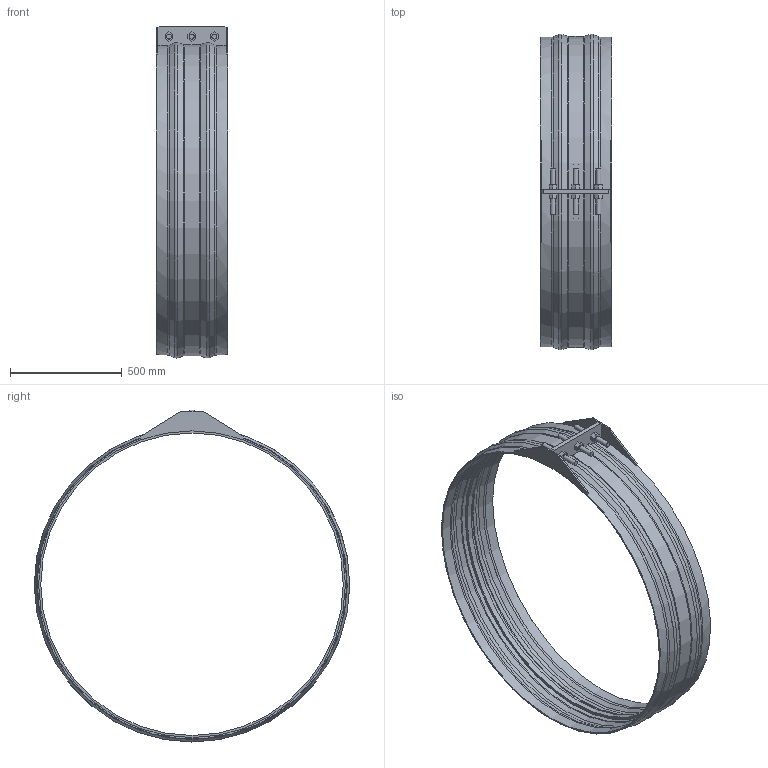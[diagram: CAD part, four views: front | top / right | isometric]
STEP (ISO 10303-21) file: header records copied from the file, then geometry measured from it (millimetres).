
FILE_DESCRIPTION(/* description */ ('VIC SS RESTRAINED COUPLING STYLE 233S (FLEX) (BRD)','CAx-IF Rec.Pracs.---Representation and Presentation of Product Manufacturing Information (PMI)---4.0---2014-10-13'),/* implementation_level */ '2;1');
FILE_NAME(/* name */ 'C:\Users\kkamble\AppData\Roaming\Autodesk\ApplicationPlugins\Back Up\Victaulic_VBSP_Coupling Flexible Restrained_Style 233S (BRD)\Victaulic_VBSP_Coupling Flexible Restrained_Style 233S (BRD)_50psi_54 (1350).stp',/* time_stamp */ '2020-09-22T18:30:14+05:00',/* author */ ('Vjadhav'),/* organization */ ('Victaulic'),/* preprocessor_version */ 'ST-DEVELOPER v17.2',/* originating_system */ 'Autodesk Inventor 2019',/* authorisation */ '');
FILE_SCHEMA (('AP242_MANAGED_MODEL_BASED_3D_ENGINEERING_MIM_LF { 1 0 10303 442 1 1 4 }'));
Length unit declared in the file: inch
Products named in the file (1): Style_233S_Type_2_50psi-54.0
Bounding box: 317.5 x 1410.96 x 1484.64 mm (x, y, z)
Volume: 11436404.5 mm3; surface area: 3183557 mm2
Topology: 1 solids, 1 shells, 111 faces, 301 edges, 206 vertices
Faces by surface type: plane 69, cylinder 22, torus 12, cone 8
Full cylindrical faces by diameter (mm): 22.225 x6, 1352.55 x1, 1371.6 x2, 1377.95 x2
Entity records: 3878 total; most frequent: CARTESIAN_POINT 732, DIRECTION 637, ORIENTED_EDGE 602, EDGE_CURVE 301, AXIS2_PLACEMENT_3D 223, VERTEX_POINT 206, LINE 191, VECTOR 191
